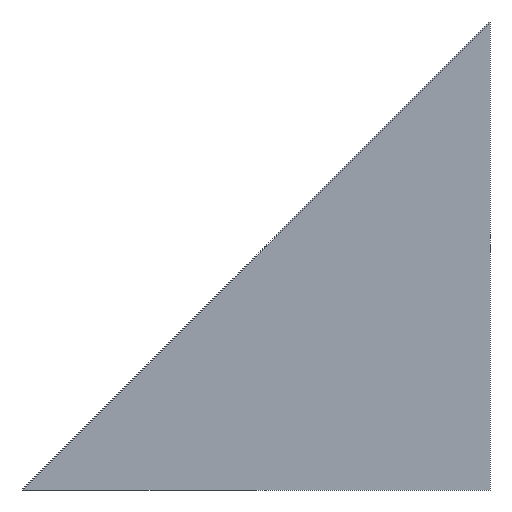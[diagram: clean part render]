
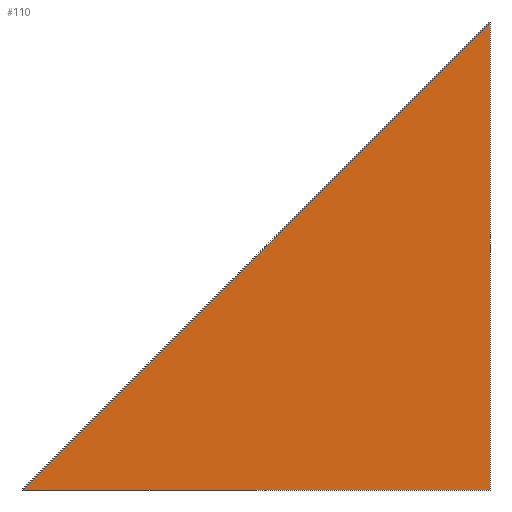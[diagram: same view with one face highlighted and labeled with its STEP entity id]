
A CAD part, left-side view. The second image highlights one B-rep face of the part: STEP entity #110.
In plain terms, the highlighted planar face has unit normal (-1, 0, 0).
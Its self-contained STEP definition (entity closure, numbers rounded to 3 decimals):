
#22 = VERTEX_POINT('',#23);
#23 = CARTESIAN_POINT('',(547.2,434.638,27.9));
#40 = VERTEX_POINT('',#41);
#41 = CARTESIAN_POINT('',(547.2,496.638,27.9));
#47 = EDGE_CURVE('',#22,#40,#48,.T.);
#48 = LINE('',#49,#50);
#49 = CARTESIAN_POINT('',(547.2,434.638,27.9));
#50 = VECTOR('',#51,1.);
#51 = DIRECTION('',(0.,1.,0.));
#71 = VERTEX_POINT('',#72);
#72 = CARTESIAN_POINT('',(547.2,434.638,89.9));
#78 = EDGE_CURVE('',#40,#71,#79,.T.);
#79 = LINE('',#80,#81);
#80 = CARTESIAN_POINT('',(547.2,496.638,27.9));
#81 = VECTOR('',#82,1.);
#82 = DIRECTION('',(0.,-0.707,0.707));
#100 = EDGE_CURVE('',#71,#22,#101,.T.);
#101 = LINE('',#102,#103);
#102 = CARTESIAN_POINT('',(547.2,434.638,89.9));
#103 = VECTOR('',#104,1.);
#104 = DIRECTION('',(0.,0.,-1.));
#110 = ADVANCED_FACE('',(#111),#116,.F.);
#111 = FACE_BOUND('',#112,.F.);
#112 = EDGE_LOOP('',(#113,#114,#115));
#113 = ORIENTED_EDGE('',*,*,#47,.T.);
#114 = ORIENTED_EDGE('',*,*,#78,.T.);
#115 = ORIENTED_EDGE('',*,*,#100,.T.);
#116 = PLANE('',#117);
#117 = AXIS2_PLACEMENT_3D('',#118,#119,#120);
#118 = CARTESIAN_POINT('',(547.2,456.558,49.82));
#119 = DIRECTION('',(1.,0.,0.));
#120 = DIRECTION('',(0.,0.,1.));
